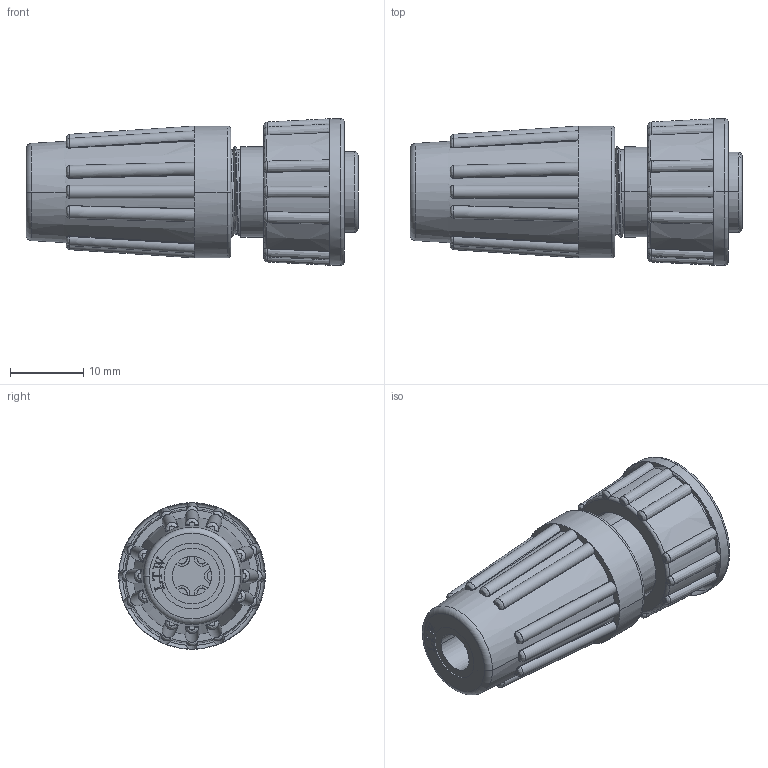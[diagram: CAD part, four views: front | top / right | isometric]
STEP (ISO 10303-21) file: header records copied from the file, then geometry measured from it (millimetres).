
FILE_DESCRIPTION((''),'2;1');
FILE_NAME('BD-05BFMA-SL6001_ASM','2021-08-10T',('L100003'),(''),'PRO/ENGINEER BY PARAMETRIC TECHNOLOGY CORPORATION, 2017170','PRO/ENGINEER BY PARAMETRIC TECHNOLOGY CORPORATION, 2017170','');
FILE_SCHEMA(('CONFIG_CONTROL_DESIGN'));
Length unit declared in the file: millimetre
Products named in the file (2): _BD-05BFMA-SL6001; BD-05BFMA-SL6001_ASM
Assembly tree (1 placements, depth 2):
  BD-05BFMA-SL6001_ASM
    _BD-05BFMA-SL6001
Bounding box: 45.35 x 20 x 20 mm (x, y, z)
Volume: 4682.5 mm3; surface area: 8727.7 mm2
Topology: 2 solids, 3 shells, 570 faces, 1520 edges, 966 vertices
Faces by surface type: plane 209, cylinder 150, cone 59, extrusion 59, bspline 46, torus 37, sphere 10
Entity records: 33561 total; most frequent: CARTESIAN_POINT 15791, ORIENTED_EDGE 3020, DIRECTION 2422, EDGE_CURVE 1510, PRESENTATION_STYLE_ASSIGNMENT 988, STYLED_ITEM 988, VERTEX_POINT 966, AXIS2_PLACEMENT_3D 873
